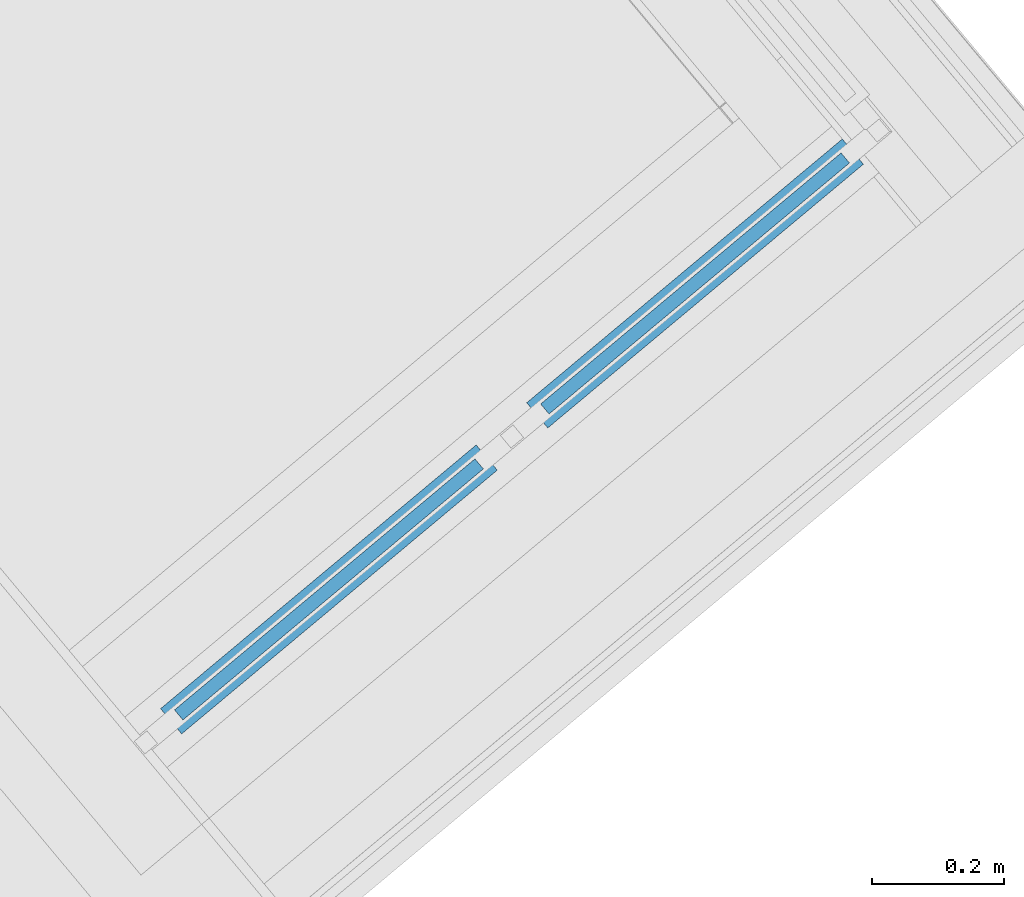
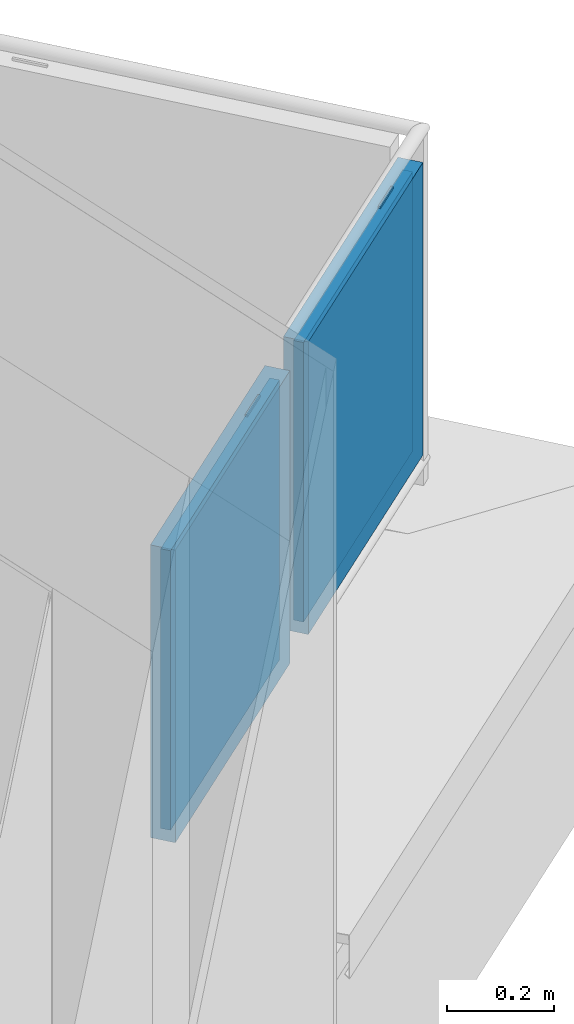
# One storey, part 43 of 53: 4 building element parts, 1 element without a shape of its own.
"""IFC4 building model written with IfcOpenShell, lengths in metres."""

from ifc_helpers import new_model, entity, si_unit, converted_unit, derived_unit, direction, frame, origin_with_axes, place, context, subcontext, project, spatial, polygons, material, type_object, element, aggregate, save


model = new_model("IFC4")

# Units and contexts
model_context = context("Model", 3, precision=1e-05, world=origin_with_axes(), true_north=direction((0.0, 1.0)))
body_context = subcontext(model_context, "Body", "Model", "MODEL_VIEW")
ifc_project = project(units=[si_unit("LENGTHUNIT", "METRE"), si_unit("AREAUNIT", "SQUARE_METRE"), si_unit("VOLUMEUNIT", "CUBIC_METRE"), converted_unit("PLANEANGLEUNIT", "DEGREE", entity("IfcPlaneAngleMeasure", 0.0174532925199), si_unit("PLANEANGLEUNIT", "RADIAN"), dimensions=[0, 0, 0, 0, 0, 0, 0]), converted_unit("TIMEUNIT", "Year", entity("IfcTimeMeasure", 31556926.0), si_unit("TIMEUNIT", "SECOND"), dimensions=[0, 0, 1, 0, 0, 0, 0]), si_unit("MASSUNIT", "GRAM", prefix="KILO"), si_unit("THERMODYNAMICTEMPERATUREUNIT", "DEGREE_CELSIUS"), si_unit("LUMINOUSINTENSITYUNIT", "LUMEN"), si_unit("ENERGYUNIT", "JOULE", prefix="MEGA"), derived_unit("THERMALCONDUCTANCEUNIT", [(si_unit("POWERUNIT", "WATT"), 1), (si_unit("LENGTHUNIT", "METRE"), -1), (si_unit("THERMODYNAMICTEMPERATUREUNIT", "KELVIN"), -1)]), derived_unit("SPECIFICHEATCAPACITYUNIT", [(si_unit("ENERGYUNIT", "JOULE"), 1), (si_unit("MASSUNIT", "GRAM", prefix="KILO"), -1), (si_unit("THERMODYNAMICTEMPERATUREUNIT", "KELVIN"), -1)]), derived_unit("MASSDENSITYUNIT", [(si_unit("MASSUNIT", "GRAM", prefix="KILO"), 1), (si_unit("VOLUMEUNIT", "CUBIC_METRE"), -1)])], contexts=[model_context])

# Site, building, storey, space
site_placement = place(None, frame((-0.00153261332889, -0.00661245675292, 0.0), z_axis=(0.0, 0.0, 1.0), x_axis=(1.0, 0.0, 0.0)))
site = spatial("IfcSite", under=ifc_project, at=site_placement, Name="Gelände", CompositionType="ELEMENT")
building_placement = place(site_placement, origin_with_axes())
building = spatial("IfcBuilding", under=site, at=building_placement, Name="Gebäude", CompositionType="ELEMENT")
storey_placement = place(building_placement, frame((0.0, 0.0, 2.74), z_axis=(0.0, 0.0, 1.0), x_axis=(1.0, 0.0, 0.0)))
storey = spatial("IfcBuildingStorey", under=building, at=storey_placement, Name="OG1", CompositionType="ELEMENT", Elevation=2.74)
space_placement = place(storey_placement, frame((9.48027034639, 24.9670510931, 0.22), z_axis=(0.0, 0.0, 1.0), x_axis=(0.641209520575, -0.76736585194, 0.0)))
space = spatial("IfcSpace", under=storey, at=space_placement, CompositionType="ELEMENT", PredefinedType="NOTDEFINED")

# Railing, building element parts
railing_type = type_object("IfcRailingType", Name="Geländerart", PredefinedType="NOTDEFINED")
railing_placement = place(space_placement, frame((5.69466912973, 0.0, 0.16), z_axis=(0.0, 0.0, 1.0), x_axis=(0.641209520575, 0.76736585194, 0.0)))
railing = element("IfcRailing", 1, at=railing_placement, inside=space, type_object=railing_type, Name="Geländer - 001", PredefinedType="NOTDEFINED")
ifc_material_1 = material(Name="Profilit")
building_element_part_1_placement = place(railing_placement, origin_with_axes())
building_element_part_1 = element("IfcBuildingElementPart", 2, at=building_element_part_1_placement, material=ifc_material_1, Name="Profilit", PredefinedType="NOTDEFINED", context=body_context, shape_type="Tessellation", body=[
    polygons([(0.532155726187, 0.392542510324, 0.135), (0.0755271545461, 0.0109840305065, 0.135), (0.0755271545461, 0.0109840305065, 0.775), (0.532155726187, 0.392542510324, 0.775), (0.0883513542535, -0.00436327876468, 0.135), (0.544979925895, 0.377195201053, 0.135), (0.0883513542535, -0.00436327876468, 0.775), (0.544979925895, 0.377195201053, 0.775)], [[[1, 2, 3, 4]], [[5, 2, 1, 6]], [[7, 3, 2, 5]], [[4, 3, 7, 8]], [[1, 4, 8, 6]], [[7, 5, 6, 8]]], closed=True),
])
ifc_material_2 = material(Name="Aluminium")
building_element_part_2_placement = place(railing_placement, origin_with_axes())
building_element_part_2 = element("IfcBuildingElementPart", 3, at=building_element_part_2_placement, material=ifc_material_2, Name="Aluminium", PredefinedType="NOTDEFINED", context=body_context, shape_type="Tessellation", body=[
    polygons([(0.145562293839, 0.0597316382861, 0.12), (0.199277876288, 0.104616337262, 0.12), (0.199277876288, 0.104616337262, 0.095), (0.145562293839, 0.0597316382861, 0.095), (0.148768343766, 0.0558948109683, 0.12), (0.202483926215, 0.100779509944, 0.12), (0.202483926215, 0.100779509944, 0.095), (0.148768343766, 0.0558948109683, 0.095)], [[[1, 2, 3, 4]], [[5, 6, 2, 1]], [[2, 6, 7, 3]], [[4, 3, 7, 8]], [[1, 4, 8, 5]], [[8, 7, 6, 5]]], closed=True),
    polygons([(0.471738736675, 0.332284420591, 0.79), (0.418023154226, 0.287399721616, 0.79), (0.418023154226, 0.287399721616, 0.795), (0.471738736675, 0.332284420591, 0.795), (0.474944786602, 0.328447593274, 0.79), (0.421229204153, 0.283562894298, 0.79), (0.421229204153, 0.283562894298, 0.795), (0.474944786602, 0.328447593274, 0.795)], [[[1, 2, 3, 4]], [[5, 6, 2, 1]], [[2, 6, 7, 3]], [[4, 3, 7, 8]], [[1, 4, 8, 5]], [[8, 7, 6, 5]]], closed=True),
    polygons([(0.0864590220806, -0.0254919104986, 0.12), (0.0543985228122, 0.0128763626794, 0.12), (0.53404805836, 0.413671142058, 0.12), (0.566108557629, 0.37530286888, 0.12), (0.101806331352, -0.0126677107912, 0.14), (0.0921881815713, -0.00115722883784, 0.14), (0.0883513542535, -0.00436327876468, 0.135), (0.0755271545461, 0.0109840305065, 0.135), (0.0793639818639, 0.0141900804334, 0.14), (0.0697458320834, 0.0257005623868, 0.14), (0.518700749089, 0.400846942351, 0.14), (0.518700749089, 0.400846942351, 0.77), (0.0697458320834, 0.0257005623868, 0.77), (0.0697458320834, 0.0257005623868, 0.14), (0.0543985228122, 0.0128763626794, 0.12), (0.0543985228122, 0.0128763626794, 0.79), (0.53404805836, 0.413671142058, 0.79), (0.566108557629, 0.37530286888, 0.79), (0.0864590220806, -0.0254919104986, 0.79), (0.0864590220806, -0.0254919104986, 0.12), (0.101806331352, -0.0126677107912, 0.14), (0.101806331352, -0.0126677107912, 0.77), (0.550761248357, 0.362478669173, 0.77), (0.550761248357, 0.362478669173, 0.14), (0.541143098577, 0.373989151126, 0.14), (0.541143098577, 0.373989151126, 0.77), (0.0921881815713, -0.00115722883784, 0.77), (0.0921881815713, -0.00115722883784, 0.14), (0.0883513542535, -0.00436327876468, 0.135), (0.0883513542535, -0.00436327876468, 0.775), (0.544979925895, 0.377195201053, 0.775), (0.544979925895, 0.377195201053, 0.135), (0.532155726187, 0.392542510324, 0.135), (0.532155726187, 0.392542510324, 0.775), (0.0755271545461, 0.0109840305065, 0.775), (0.0755271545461, 0.0109840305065, 0.135), (0.0793639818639, 0.0141900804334, 0.14), (0.0793639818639, 0.0141900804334, 0.77), (0.52831889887, 0.389336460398, 0.77), (0.52831889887, 0.389336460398, 0.14)], [[[1, 2, 3, 4]], [[1, 5, 6, 7, 8, 9, 10, 2]], [[2, 10, 11, 12, 13, 14, 15, 16, 17, 3]], [[4, 3, 17, 18]], [[5, 1, 4, 18, 19, 20, 21, 22, 23, 24]], [[6, 5, 24, 25]], [[7, 6, 25, 26, 27, 28, 29, 30, 31, 32]], [[8, 7, 32, 33]], [[9, 8, 33, 34, 35, 36, 37, 38, 39, 40]], [[10, 9, 40, 11]], [[11, 40, 39, 12]], [[12, 39, 38, 13]], [[13, 38, 37, 14]], [[20, 15, 14, 37, 36, 29, 28, 21]], [[19, 16, 15, 20]], [[18, 17, 16, 19]], [[27, 22, 21, 28]], [[26, 23, 22, 27]], [[25, 24, 23, 26]], [[35, 30, 29, 36]], [[34, 31, 30, 35]], [[33, 32, 31, 34]]], closed=True),
])
building_element_part_3_placement = place(railing_placement, origin_with_axes())
building_element_part_3 = element("IfcBuildingElementPart", 4, at=building_element_part_3_placement, material=ifc_material_1, Name="Profilit", PredefinedType="NOTDEFINED", context=body_context, shape_type="Tessellation", body=[
    polygons([(1.08854180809, 0.85745828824, 0.135), (0.63191323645, 0.475899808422, 0.135), (0.63191323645, 0.475899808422, 0.775), (1.08854180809, 0.85745828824, 0.775), (0.644737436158, 0.460552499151, 0.135), (1.1013660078, 0.842110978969, 0.135), (0.644737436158, 0.460552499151, 0.775), (1.1013660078, 0.842110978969, 0.775)], [[[1, 2, 3, 4]], [[5, 2, 1, 6]], [[7, 3, 2, 5]], [[4, 3, 7, 8]], [[1, 4, 8, 6]], [[7, 5, 6, 8]]], closed=True),
])
building_element_part_4_placement = place(railing_placement, origin_with_axes())
building_element_part_4 = element("IfcBuildingElementPart", 5, at=building_element_part_4_placement, material=ifc_material_2, Name="Aluminium", PredefinedType="NOTDEFINED", context=body_context, shape_type="Tessellation", body=[
    polygons([(0.701948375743, 0.524647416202, 0.12), (0.755663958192, 0.569532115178, 0.12), (0.755663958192, 0.569532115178, 0.095), (0.701948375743, 0.524647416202, 0.095), (0.70515442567, 0.520810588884, 0.12), (0.758870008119, 0.56569528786, 0.12), (0.758870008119, 0.56569528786, 0.095), (0.70515442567, 0.520810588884, 0.095)], [[[1, 2, 3, 4]], [[5, 6, 2, 1]], [[2, 6, 7, 3]], [[4, 3, 7, 8]], [[1, 4, 8, 5]], [[8, 7, 6, 5]]], closed=True),
    polygons([(1.02812481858, 0.797200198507, 0.79), (0.97440923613, 0.752315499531, 0.79), (0.97440923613, 0.752315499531, 0.795), (1.02812481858, 0.797200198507, 0.795), (1.03133086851, 0.793363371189, 0.79), (0.977615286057, 0.748478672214, 0.79), (0.977615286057, 0.748478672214, 0.795), (1.03133086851, 0.793363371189, 0.795)], [[[1, 2, 3, 4]], [[5, 6, 2, 1]], [[2, 6, 7, 3]], [[4, 3, 7, 8]], [[1, 4, 8, 5]], [[8, 7, 6, 5]]], closed=True),
    polygons([(0.642845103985, 0.439423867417, 0.12), (0.610784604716, 0.477792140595, 0.12), (1.09043414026, 0.878586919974, 0.12), (1.12249463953, 0.840218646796, 0.12), (0.658192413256, 0.452248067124, 0.14), (0.648574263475, 0.463758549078, 0.14), (0.644737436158, 0.460552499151, 0.135), (0.63191323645, 0.475899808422, 0.135), (0.635750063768, 0.479105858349, 0.14), (0.626131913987, 0.490616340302, 0.14), (1.07508683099, 0.865762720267, 0.14), (1.07508683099, 0.865762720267, 0.77), (0.626131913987, 0.490616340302, 0.77), (0.626131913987, 0.490616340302, 0.14), (0.610784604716, 0.477792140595, 0.12), (0.610784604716, 0.477792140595, 0.79), (1.09043414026, 0.878586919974, 0.79), (1.12249463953, 0.840218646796, 0.79), (0.642845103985, 0.439423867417, 0.79), (0.642845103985, 0.439423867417, 0.12), (0.658192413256, 0.452248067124, 0.14), (0.658192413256, 0.452248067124, 0.77), (1.10714733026, 0.827394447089, 0.77), (1.10714733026, 0.827394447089, 0.14), (1.09752918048, 0.838904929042, 0.14), (1.09752918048, 0.838904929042, 0.77), (0.648574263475, 0.463758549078, 0.77), (0.648574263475, 0.463758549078, 0.14), (0.644737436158, 0.460552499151, 0.135), (0.644737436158, 0.460552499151, 0.775), (1.1013660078, 0.842110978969, 0.775), (1.1013660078, 0.842110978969, 0.135), (1.08854180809, 0.85745828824, 0.135), (1.08854180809, 0.85745828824, 0.775), (0.63191323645, 0.475899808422, 0.775), (0.63191323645, 0.475899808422, 0.135), (0.635750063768, 0.479105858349, 0.14), (0.635750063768, 0.479105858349, 0.77), (1.08470498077, 0.854252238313, 0.77), (1.08470498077, 0.854252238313, 0.14)], [[[1, 2, 3, 4]], [[1, 5, 6, 7, 8, 9, 10, 2]], [[2, 10, 11, 12, 13, 14, 15, 16, 17, 3]], [[4, 3, 17, 18]], [[5, 1, 4, 18, 19, 20, 21, 22, 23, 24]], [[6, 5, 24, 25]], [[7, 6, 25, 26, 27, 28, 29, 30, 31, 32]], [[8, 7, 32, 33]], [[9, 8, 33, 34, 35, 36, 37, 38, 39, 40]], [[10, 9, 40, 11]], [[11, 40, 39, 12]], [[12, 39, 38, 13]], [[13, 38, 37, 14]], [[20, 15, 14, 37, 36, 29, 28, 21]], [[19, 16, 15, 20]], [[18, 17, 16, 19]], [[27, 22, 21, 28]], [[26, 23, 22, 27]], [[25, 24, 23, 26]], [[35, 30, 29, 36]], [[34, 31, 30, 35]], [[33, 32, 31, 34]]], closed=True),
])
aggregate(railing, [building_element_part_1, building_element_part_2, building_element_part_3, building_element_part_4])

save(model, "model.ifc")
